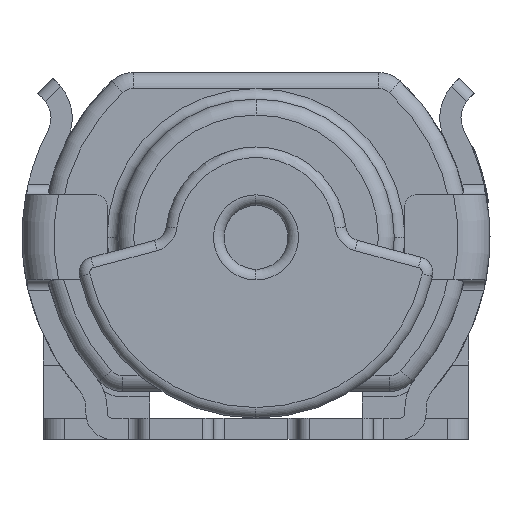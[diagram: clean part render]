
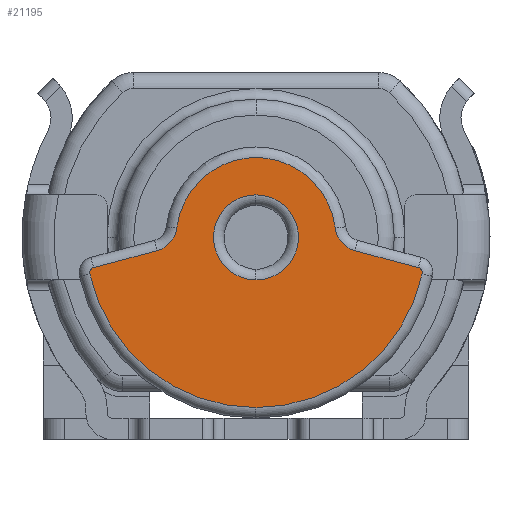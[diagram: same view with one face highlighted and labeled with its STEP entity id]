
A CAD part, front view. The second image highlights one B-rep face of the part: STEP entity #21195.
In plain terms, the highlighted planar face has unit normal (0, -1, 0).
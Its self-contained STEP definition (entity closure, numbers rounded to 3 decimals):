
#145 = AXIS2_PLACEMENT_3D ( 'NONE', #15613, #13569, #751 ) ;
#234 = VERTEX_POINT ( 'NONE', #23820 ) ;
#751 = DIRECTION ( 'NONE',  ( 0., 0., -1. ) ) ;
#1110 = CIRCLE ( 'NONE', #2006, 0.75 ) ;
#1118 = DIRECTION ( 'NONE',  ( 0., 1., 0. ) ) ;
#1125 = ORIENTED_EDGE ( 'NONE', *, *, #25676, .T. ) ;
#1301 = CARTESIAN_POINT ( 'NONE',  ( 0., -6.35, 2.3 ) ) ;
#1626 = ORIENTED_EDGE ( 'NONE', *, *, #13004, .T. ) ;
#2006 = AXIS2_PLACEMENT_3D ( 'NONE', #26921, #24693, #22729 ) ;
#2116 = AXIS2_PLACEMENT_3D ( 'NONE', #16137, #22872, #22742 ) ;
#2293 = AXIS2_PLACEMENT_3D ( 'NONE', #14413, #16453, #16745 ) ;
#3018 = DIRECTION ( 'NONE',  ( 0., 0., -1. ) ) ;
#3426 = CARTESIAN_POINT ( 'NONE',  ( 0.745, -6.35, 1.988 ) ) ;
#4327 = CIRCLE ( 'NONE', #2116, 1.6 ) ;
#4481 = CARTESIAN_POINT ( 'NONE',  ( 0., -6.35, 1.9 ) ) ;
#4650 = VECTOR ( 'NONE', #4751, 1000. ) ;
#4751 = DIRECTION ( 'NONE',  ( -0.966, 0., -0.259 ) ) ;
#4821 = ORIENTED_EDGE ( 'NONE', *, *, #9863, .T. ) ;
#4828 = FACE_BOUND ( 'NONE', #5507, .T. ) ;
#5130 = DIRECTION ( 'NONE',  ( 0., 0., -1. ) ) ;
#5507 = EDGE_LOOP ( 'NONE', ( #25059, #5743 ) ) ;
#5538 = CARTESIAN_POINT ( 'NONE',  ( 0., -6.35, 1.9 ) ) ;
#5743 = ORIENTED_EDGE ( 'NONE', *, *, #22689, .T. ) ;
#6159 = CARTESIAN_POINT ( 'NONE',  ( 1.563, -6.35, 1.556 ) ) ;
#6433 = VERTEX_POINT ( 'NONE', #1301 ) ;
#6888 = DIRECTION ( 'NONE',  ( 0., -1., 0. ) ) ;
#7187 = CARTESIAN_POINT ( 'NONE',  ( 0.928, -6.35, 1.775 ) ) ;
#7481 = DIRECTION ( 'NONE',  ( 0., 0., -1. ) ) ;
#7606 = DIRECTION ( 'NONE',  ( 0., 1., 0. ) ) ;
#7646 = LINE ( 'NONE', #14247, #13638 ) ;
#8218 = VERTEX_POINT ( 'NONE', #17767 ) ;
#8360 = VERTEX_POINT ( 'NONE', #15961 ) ;
#8762 = ORIENTED_EDGE ( 'NONE', *, *, #24992, .T. ) ;
#8834 = CARTESIAN_POINT ( 'NONE',  ( 1.514, -6.35, 1.567 ) ) ;
#9004 = VERTEX_POINT ( 'NONE', #14672 ) ;
#9339 = ORIENTED_EDGE ( 'NONE', *, *, #14139, .T. ) ;
#9820 = CIRCLE ( 'NONE', #145, 0.05 ) ;
#9863 = EDGE_CURVE ( 'NONE', #26290, #8218, #9820, .T. ) ;
#9901 = DIRECTION ( 'NONE',  ( 0., 0., -1. ) ) ;
#10123 = EDGE_CURVE ( 'NONE', #8360, #26290, #23734, .T. ) ;
#11003 = EDGE_CURVE ( 'NONE', #19445, #234, #1110, .T. ) ;
#11986 = AXIS2_PLACEMENT_3D ( 'NONE', #8834, #6888, #3018 ) ;
#13004 = EDGE_CURVE ( 'NONE', #234, #8360, #14161, .T. ) ;
#13206 = FACE_OUTER_BOUND ( 'NONE', #18921, .T. ) ;
#13276 = CIRCLE ( 'NONE', #11986, 0.05 ) ;
#13475 = ORIENTED_EDGE ( 'NONE', *, *, #19062, .T. ) ;
#13569 = DIRECTION ( 'NONE',  ( 0., -1., 0. ) ) ;
#13638 = VECTOR ( 'NONE', #14369, 1000. ) ;
#13789 = ORIENTED_EDGE ( 'NONE', *, *, #11003, .T. ) ;
#14139 = EDGE_CURVE ( 'NONE', #22744, #19445, #23919, .T. ) ;
#14161 = CIRCLE ( 'NONE', #2293, 0.25 ) ;
#14247 = CARTESIAN_POINT ( 'NONE',  ( 0.928, -6.35, 1.775 ) ) ;
#14369 = DIRECTION ( 'NONE',  ( -0.966, 0., 0.259 ) ) ;
#14413 = CARTESIAN_POINT ( 'NONE',  ( -0.993, -6.35, 2.017 ) ) ;
#14672 = CARTESIAN_POINT ( 'NONE',  ( 1.527, -6.35, 1.615 ) ) ;
#15018 = VERTEX_POINT ( 'NONE', #24829 ) ;
#15468 = CARTESIAN_POINT ( 'NONE',  ( 0., -6.35, 0.3 ) ) ;
#15613 = CARTESIAN_POINT ( 'NONE',  ( -1.514, -6.35, 1.567 ) ) ;
#15961 = CARTESIAN_POINT ( 'NONE',  ( -0.928, -6.35, 1.775 ) ) ;
#15968 = AXIS2_PLACEMENT_3D ( 'NONE', #17918, #1118, #7481 ) ;
#15975 = AXIS2_PLACEMENT_3D ( 'NONE', #5538, #16119, #22479 ) ;
#16074 = CARTESIAN_POINT ( 'NONE',  ( 0., -6.35, 1.9 ) ) ;
#16119 = DIRECTION ( 'NONE',  ( 0., -1., 0. ) ) ;
#16137 = CARTESIAN_POINT ( 'NONE',  ( 0., -6.35, 1.9 ) ) ;
#16453 = DIRECTION ( 'NONE',  ( 0., 1., 0. ) ) ;
#16745 = DIRECTION ( 'NONE',  ( 0., 0., -1. ) ) ;
#16915 = VERTEX_POINT ( 'NONE', #6159 ) ;
#17475 = ORIENTED_EDGE ( 'NONE', *, *, #20914, .T. ) ;
#17744 = DIRECTION ( 'NONE',  ( 0., -1., 0. ) ) ;
#17767 = CARTESIAN_POINT ( 'NONE',  ( -1.563, -6.35, 1.556 ) ) ;
#17918 = CARTESIAN_POINT ( 'NONE',  ( 0.993, -6.35, 2.017 ) ) ;
#18832 = AXIS2_PLACEMENT_3D ( 'NONE', #16074, #17744, #9901 ) ;
#18921 = EDGE_LOOP ( 'NONE', ( #13475, #9339, #13789, #1626, #23230, #4821, #1125, #17475, #8762 ) ) ;
#19062 = EDGE_CURVE ( 'NONE', #9004, #22744, #7646, .T. ) ;
#19182 = DIRECTION ( 'NONE',  ( 0., 1., 0. ) ) ;
#19445 = VERTEX_POINT ( 'NONE', #3426 ) ;
#19470 = CARTESIAN_POINT ( 'NONE',  ( -1.527, -6.35, 1.615 ) ) ;
#19715 = VERTEX_POINT ( 'NONE', #15468 ) ;
#19848 = CARTESIAN_POINT ( 'NONE',  ( 0., -6.35, 1.9 ) ) ;
#19950 = EDGE_CURVE ( 'NONE', #15018, #6433, #20708, .T. ) ;
#20526 = CARTESIAN_POINT ( 'NONE',  ( -1.527, -6.35, 1.615 ) ) ;
#20708 = CIRCLE ( 'NONE', #23752, 0.4 ) ;
#20914 = EDGE_CURVE ( 'NONE', #19715, #16915, #4327, .T. ) ;
#21195 = ADVANCED_FACE ( 'NONE', ( #4828, #13206 ), #21627, .T. ) ;
#21627 = PLANE ( 'NONE',  #18832 ) ;
#22479 = DIRECTION ( 'NONE',  ( 0., 0., -1. ) ) ;
#22689 = EDGE_CURVE ( 'NONE', #6433, #15018, #26901, .T. ) ;
#22729 = DIRECTION ( 'NONE',  ( 0., 0., -1. ) ) ;
#22742 = DIRECTION ( 'NONE',  ( 0., 0., -1. ) ) ;
#22744 = VERTEX_POINT ( 'NONE', #7187 ) ;
#22872 = DIRECTION ( 'NONE',  ( 0., -1., 0. ) ) ;
#23230 = ORIENTED_EDGE ( 'NONE', *, *, #10123, .T. ) ;
#23734 = LINE ( 'NONE', #19470, #4650 ) ;
#23752 = AXIS2_PLACEMENT_3D ( 'NONE', #4481, #19182, #25286 ) ;
#23820 = CARTESIAN_POINT ( 'NONE',  ( -0.745, -6.35, 1.988 ) ) ;
#23919 = CIRCLE ( 'NONE', #15968, 0.25 ) ;
#24693 = DIRECTION ( 'NONE',  ( 0., -1., 0. ) ) ;
#24810 = CIRCLE ( 'NONE', #15975, 1.6 ) ;
#24829 = CARTESIAN_POINT ( 'NONE',  ( 0., -6.35, 1.5 ) ) ;
#24992 = EDGE_CURVE ( 'NONE', #16915, #9004, #13276, .T. ) ;
#25059 = ORIENTED_EDGE ( 'NONE', *, *, #19950, .T. ) ;
#25286 = DIRECTION ( 'NONE',  ( 0., 0., -1. ) ) ;
#25676 = EDGE_CURVE ( 'NONE', #8218, #19715, #24810, .T. ) ;
#25998 = AXIS2_PLACEMENT_3D ( 'NONE', #19848, #7606, #5130 ) ;
#26290 = VERTEX_POINT ( 'NONE', #20526 ) ;
#26901 = CIRCLE ( 'NONE', #25998, 0.4 ) ;
#26921 = CARTESIAN_POINT ( 'NONE',  ( 0., -6.35, 1.9 ) ) ;
